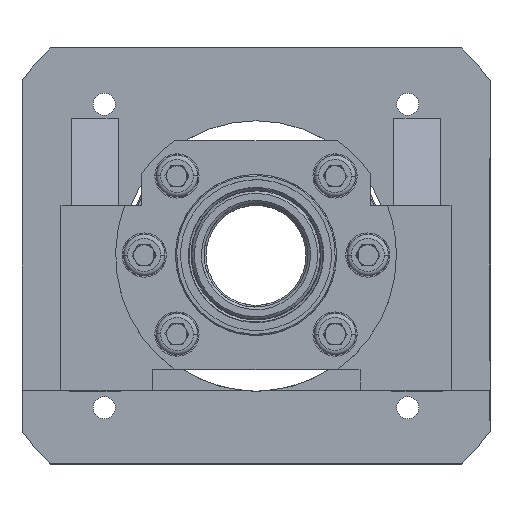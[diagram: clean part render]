
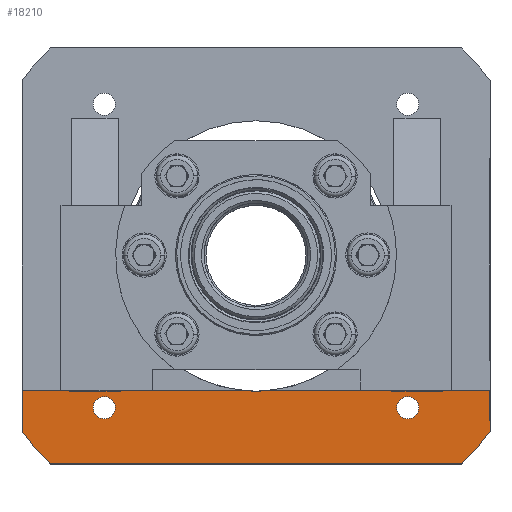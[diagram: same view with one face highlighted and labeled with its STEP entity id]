
A CAD part, top view. The second image highlights one B-rep face of the part: STEP entity #18210.
In plain terms, the highlighted planar face has unit normal (0, 0, 1).
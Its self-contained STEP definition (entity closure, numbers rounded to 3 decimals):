
#438 = AXIS2_PLACEMENT_3D ( 'NONE', #26248, #14076, #1699 ) ;
#646 = FACE_OUTER_BOUND ( 'NONE', #11849, .T. ) ;
#772 = DIRECTION ( 'NONE',  ( 0., 0., 1. ) ) ;
#887 = EDGE_CURVE ( 'NONE', #19377, #25136, #16305, .T. ) ;
#1281 = ORIENTED_EDGE ( 'NONE', *, *, #18763, .F. ) ;
#1405 = VECTOR ( 'NONE', #7057, 1000. ) ;
#1699 = DIRECTION ( 'NONE',  ( 1., 0., 0. ) ) ;
#2070 = DIRECTION ( 'NONE',  ( 1., 0., 0. ) ) ;
#2074 = EDGE_LOOP ( 'NONE', ( #19209, #1281 ) ) ;
#2198 = ORIENTED_EDGE ( 'NONE', *, *, #21665, .F. ) ;
#3350 = AXIS2_PLACEMENT_3D ( 'NONE', #25909, #25929, #25941 ) ;
#3590 = VERTEX_POINT ( 'NONE', #14018 ) ;
#4158 = VERTEX_POINT ( 'NONE', #5889 ) ;
#4333 = CARTESIAN_POINT ( 'NONE',  ( 0., 0., 21. ) ) ;
#4710 = ORIENTED_EDGE ( 'NONE', *, *, #24262, .F. ) ;
#4870 = CARTESIAN_POINT ( 'NONE',  ( 62.586, -58.336, 21. ) ) ;
#4896 = AXIS2_PLACEMENT_3D ( 'NONE', #13172, #772, #15177 ) ;
#5306 = VERTEX_POINT ( 'NONE', #16099 ) ;
#5435 = EDGE_CURVE ( 'NONE', #3590, #5306, #11837, .T. ) ;
#5513 = VERTEX_POINT ( 'NONE', #14299 ) ;
#5633 = DIRECTION ( 'NONE',  ( 0., 0., 1. ) ) ;
#5889 = CARTESIAN_POINT ( 'NONE',  ( 90., -67.5, 21. ) ) ;
#6690 = PLANE ( 'NONE',  #26481 ) ;
#6709 = VECTOR ( 'NONE', #9420, 1000. ) ;
#6772 = CIRCLE ( 'NONE', #9355, 52. ) ;
#7057 = DIRECTION ( 'NONE',  ( 1., 0., 0. ) ) ;
#7218 = VERTEX_POINT ( 'NONE', #13381 ) ;
#7239 = DIRECTION ( 'NONE',  ( 1., 0., 0. ) ) ;
#7661 = EDGE_LOOP ( 'NONE', ( #2198, #4710 ) ) ;
#7736 = ORIENTED_EDGE ( 'NONE', *, *, #10163, .T. ) ;
#7747 = CIRCLE ( 'NONE', #438, 4.25 ) ;
#8137 = DIRECTION ( 'NONE',  ( 0., 0., 1. ) ) ;
#8261 = EDGE_CURVE ( 'NONE', #5306, #4158, #11456, .T. ) ;
#8794 = DIRECTION ( 'NONE',  ( 1., 0., 0. ) ) ;
#9320 = ORIENTED_EDGE ( 'NONE', *, *, #11550, .T. ) ;
#9355 = AXIS2_PLACEMENT_3D ( 'NONE', #4333, #18646, #7239 ) ;
#9420 = DIRECTION ( 'NONE',  ( 0., 1., 0. ) ) ;
#9773 = ORIENTED_EDGE ( 'NONE', *, *, #5435, .T. ) ;
#9975 = CARTESIAN_POINT ( 'NONE',  ( 54.086, -58.336, 21. ) ) ;
#10163 = EDGE_CURVE ( 'NONE', #7218, #21196, #18724, .T. ) ;
#10283 = ORIENTED_EDGE ( 'NONE', *, *, #8261, .T. ) ;
#10667 = ORIENTED_EDGE ( 'NONE', *, *, #23226, .T. ) ;
#10952 = EDGE_CURVE ( 'NONE', #5513, #17612, #11812, .T. ) ;
#11243 = ORIENTED_EDGE ( 'NONE', *, *, #10952, .F. ) ;
#11311 = CARTESIAN_POINT ( 'NONE',  ( -90., 80., 21. ) ) ;
#11456 = CIRCLE ( 'NONE', #24334, 112.5 ) ;
#11550 = EDGE_CURVE ( 'NONE', #21196, #3590, #12104, .T. ) ;
#11812 = LINE ( 'NONE', #17178, #1405 ) ;
#11837 = LINE ( 'NONE', #14330, #16525 ) ;
#11849 = EDGE_LOOP ( 'NONE', ( #7736, #9320, #9773, #10283, #10667, #11243, #12285, #20809 ) ) ;
#11894 = CARTESIAN_POINT ( 'NONE',  ( -5.578, -51.7, 21. ) ) ;
#12104 = CIRCLE ( 'NONE', #18892, 112.5 ) ;
#12285 = ORIENTED_EDGE ( 'NONE', *, *, #21343, .T. ) ;
#12329 = FACE_BOUND ( 'NONE', #2074, .T. ) ;
#12547 = VERTEX_POINT ( 'NONE', #11894 ) ;
#13172 = CARTESIAN_POINT ( 'NONE',  ( 58.336, -58.336, 21. ) ) ;
#13381 = CARTESIAN_POINT ( 'NONE',  ( -90., -51.7, 21. ) ) ;
#13501 = CARTESIAN_POINT ( 'NONE',  ( 90., 80., 21. ) ) ;
#13915 = VECTOR ( 'NONE', #22044, 1000. ) ;
#14018 = CARTESIAN_POINT ( 'NONE',  ( -79.096, -80., 21. ) ) ;
#14076 = DIRECTION ( 'NONE',  ( 0., 0., 1. ) ) ;
#14220 = DIRECTION ( 'NONE',  ( 1., 0., 0. ) ) ;
#14299 = CARTESIAN_POINT ( 'NONE',  ( 5.578, -51.7, 21. ) ) ;
#14330 = CARTESIAN_POINT ( 'NONE',  ( -90., -80., 21. ) ) ;
#14353 = CARTESIAN_POINT ( 'NONE',  ( -90., -67.5, 21. ) ) ;
#14429 = DIRECTION ( 'NONE',  ( 0., 0., 1. ) ) ;
#14435 = CARTESIAN_POINT ( 'NONE',  ( 90., -51.7, 21. ) ) ;
#14816 = CARTESIAN_POINT ( 'NONE',  ( -104.626, -112., 21. ) ) ;
#15177 = DIRECTION ( 'NONE',  ( 1., 0., 0. ) ) ;
#15342 = DIRECTION ( 'NONE',  ( 0., -1., 0. ) ) ;
#16074 = CIRCLE ( 'NONE', #4896, 4.25 ) ;
#16099 = CARTESIAN_POINT ( 'NONE',  ( 79.096, -80., 21. ) ) ;
#16305 = CIRCLE ( 'NONE', #3350, 4.25 ) ;
#16525 = VECTOR ( 'NONE', #14220, 1000. ) ;
#17144 = AXIS2_PLACEMENT_3D ( 'NONE', #26587, #14429, #2070 ) ;
#17178 = CARTESIAN_POINT ( 'NONE',  ( -104.626, -51.7, 21. ) ) ;
#17423 = EDGE_CURVE ( 'NONE', #7218, #12547, #24701, .T. ) ;
#17542 = LINE ( 'NONE', #13501, #6709 ) ;
#17612 = VERTEX_POINT ( 'NONE', #14435 ) ;
#17890 = CARTESIAN_POINT ( 'NONE',  ( 0., 0., 21. ) ) ;
#18051 = CARTESIAN_POINT ( 'NONE',  ( -104.626, -51.7, 21. ) ) ;
#18210 = ADVANCED_FACE ( 'NONE', ( #12329, #22413, #646 ), #6690, .T. ) ;
#18646 = DIRECTION ( 'NONE',  ( 0., 0., -1. ) ) ;
#18724 = LINE ( 'NONE', #11311, #23534 ) ;
#18763 = EDGE_CURVE ( 'NONE', #25136, #19377, #16074, .T. ) ;
#18892 = AXIS2_PLACEMENT_3D ( 'NONE', #20250, #8137, #22312 ) ;
#19209 = ORIENTED_EDGE ( 'NONE', *, *, #887, .F. ) ;
#19377 = VERTEX_POINT ( 'NONE', #9975 ) ;
#19915 = DIRECTION ( 'NONE',  ( 1., 0., 0. ) ) ;
#20250 = CARTESIAN_POINT ( 'NONE',  ( 0., 0., 21. ) ) ;
#20809 = ORIENTED_EDGE ( 'NONE', *, *, #17423, .F. ) ;
#20904 = DIRECTION ( 'NONE',  ( 0., 0., 1. ) ) ;
#20944 = VERTEX_POINT ( 'NONE', #21872 ) ;
#21196 = VERTEX_POINT ( 'NONE', #14353 ) ;
#21343 = EDGE_CURVE ( 'NONE', #5513, #12547, #6772, .T. ) ;
#21665 = EDGE_CURVE ( 'NONE', #20944, #25504, #7747, .T. ) ;
#21872 = CARTESIAN_POINT ( 'NONE',  ( -62.586, -58.336, 21. ) ) ;
#22044 = DIRECTION ( 'NONE',  ( 1., 0., 0. ) ) ;
#22312 = DIRECTION ( 'NONE',  ( 1., 0., 0. ) ) ;
#22413 = FACE_BOUND ( 'NONE', #7661, .T. ) ;
#22487 = CARTESIAN_POINT ( 'NONE',  ( -54.086, -58.336, 21. ) ) ;
#23210 = CIRCLE ( 'NONE', #17144, 4.25 ) ;
#23226 = EDGE_CURVE ( 'NONE', #4158, #17612, #17542, .T. ) ;
#23534 = VECTOR ( 'NONE', #15342, 1000. ) ;
#24262 = EDGE_CURVE ( 'NONE', #25504, #20944, #23210, .T. ) ;
#24334 = AXIS2_PLACEMENT_3D ( 'NONE', #17890, #5633, #19915 ) ;
#24701 = LINE ( 'NONE', #18051, #13915 ) ;
#25136 = VERTEX_POINT ( 'NONE', #4870 ) ;
#25504 = VERTEX_POINT ( 'NONE', #22487 ) ;
#25909 = CARTESIAN_POINT ( 'NONE',  ( 58.336, -58.336, 21. ) ) ;
#25929 = DIRECTION ( 'NONE',  ( 0., 0., 1. ) ) ;
#25941 = DIRECTION ( 'NONE',  ( 1., 0., 0. ) ) ;
#26248 = CARTESIAN_POINT ( 'NONE',  ( -58.336, -58.336, 21. ) ) ;
#26481 = AXIS2_PLACEMENT_3D ( 'NONE', #14816, #20904, #8794 ) ;
#26587 = CARTESIAN_POINT ( 'NONE',  ( -58.336, -58.336, 21. ) ) ;
